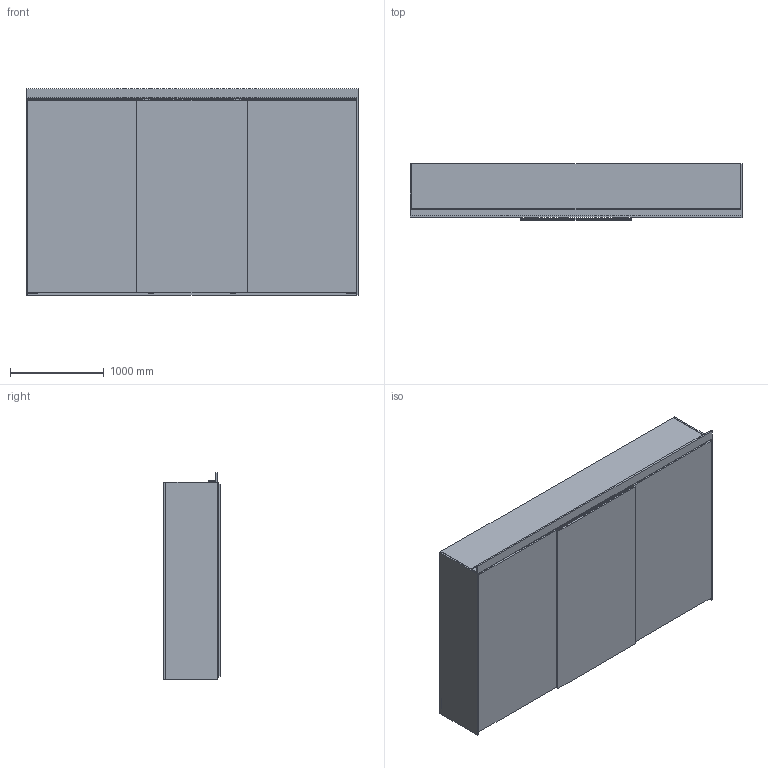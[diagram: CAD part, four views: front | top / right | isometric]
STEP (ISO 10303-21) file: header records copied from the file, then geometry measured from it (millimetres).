
FILE_DESCRIPTION(('STEP AP242'),'1');
FILE_NAME('OPO_51.047.52.stp','2026-02-23T17:25:27',(' '),(' '),'Spatial InterOp 3D',' ',' ');
FILE_SCHEMA(('AP242_MANAGED_MODEL_BASED_3D_ENGINEERING_MIM_LF {1 0 10303 442 1 1 4}'));
Length unit declared in the file: millimetre
Products named in the file (13): Zeichnung1; OPO_51.047.53; OPO_51.047.52_Obere_Rolle_Aussentuere; OPO_51.047.52_Obere_Rolle_Aussentuere_mit_Daempfer; OPO_51.047.52_Obere_Rolle_Innentuere_SCALED_id155_X-1_Y1_Z1; OPO_51.047.52_Obere_Rolle_Innentuere_mit_Daempfer; OPO_51.047.52_Stopper; OPO_51.047.52_Untere_Rolle_Aussentuere; OPO_51.047.52_Untere_Rolle_Innentuere; OPO_51.047.52_Obere_Rolle_Innentuere; OPO_51.047.52_Obere_Rolle_Innentuere_mit_Daempfer_SCALED_id179_X-1_Y1_Z1; OPO_51.047.52_Daempfung_unten; AutoCreatedBlock_155
Assembly tree (25 placements, depth 2):
  Zeichnung1
    OPO_51.047.53
    OPO_51.047.52_Obere_Rolle_Aussentuere
    OPO_51.047.52_Obere_Rolle_Aussentuere_mit_Daempfer
    OPO_51.047.52_Obere_Rolle_Innentuere_SCALED_id155_X-1_Y1_Z1
    OPO_51.047.52_Obere_Rolle_Innentuere_mit_Daempfer
    OPO_51.047.52_Stopper  x7
    OPO_51.047.52_Untere_Rolle_Aussentuere  x2
    OPO_51.047.52_Untere_Rolle_Innentuere  x4
    OPO_51.047.52_Obere_Rolle_Innentuere
    OPO_51.047.52_Obere_Rolle_Innentuere_mit_Daempfer_SCALED_id179_X-1_Y1_Z1
    OPO_51.047.52_Daempfung_unten  x4
    AutoCreatedBlock_155
Bounding box: 3534 x 599 x 2202 mm (x, y, z)
Volume: 362054702.2 mm3; surface area: 51241909.5 mm2
Topology: 192 solids, 192 shells, 4857 faces, 12742 edges, 8480 vertices
Faces by surface type: plane 2997, cylinder 1860
Entity records: 136508 total; most frequent: DIRECTION 18774, CARTESIAN_POINT 18771, ORIENTED_EDGE 18374, EDGE_CURVE 9187, LINE 6542, VECTOR 6542, AXIS2_PLACEMENT_3D 6116, VERTEX_POINT 6113
